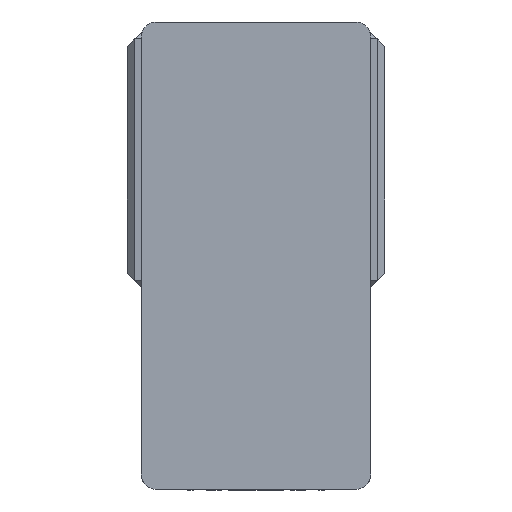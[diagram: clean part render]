
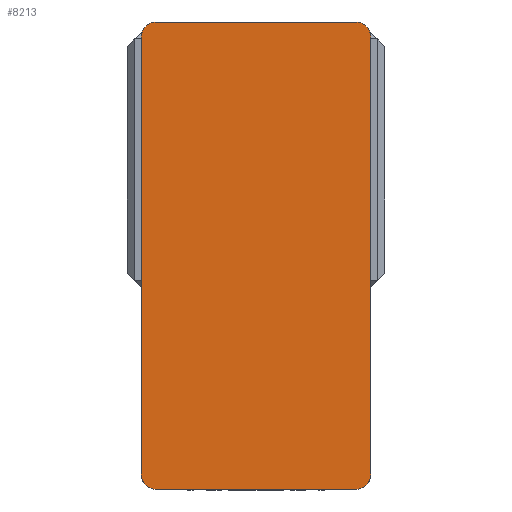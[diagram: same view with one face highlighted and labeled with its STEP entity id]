
A CAD part, left-side view. The second image highlights one B-rep face of the part: STEP entity #8213.
In plain terms, the highlighted planar face has unit normal (-1, 0, 0) as drawn and (0, 0, 1) by its records, which use the part's own axes.
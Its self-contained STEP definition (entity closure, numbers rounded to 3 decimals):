
#722 = VERTEX_POINT ( 'NONE', #6837 ) ;
#765 = CARTESIAN_POINT ( 'NONE',  ( 0., 0., 105. ) ) ;
#950 = DIRECTION ( 'NONE',  ( 0., 0., 1. ) ) ;
#971 = ORIENTED_EDGE ( 'NONE', *, *, #7994, .T. ) ;
#1046 = DIRECTION ( 'NONE',  ( 1., 0., 0. ) ) ;
#1080 = AXIS2_PLACEMENT_3D ( 'NONE', #7917, #2981, #8758 ) ;
#1086 = CARTESIAN_POINT ( 'NONE',  ( 65., 152.5, 105. ) ) ;
#1278 = CIRCLE ( 'NONE', #4645, 10. ) ;
#1470 = ORIENTED_EDGE ( 'NONE', *, *, #6660, .T. ) ;
#1596 = CARTESIAN_POINT ( 'NONE',  ( -75., 142.5, 105. ) ) ;
#1597 = DIRECTION ( 'NONE',  ( 1., 0., 0. ) ) ;
#1608 = VERTEX_POINT ( 'NONE', #8372 ) ;
#1697 = CARTESIAN_POINT ( 'NONE',  ( 65., -152.5, 105. ) ) ;
#1856 = LINE ( 'NONE', #2790, #10126 ) ;
#1975 = AXIS2_PLACEMENT_3D ( 'NONE', #765, #6542, #1597 ) ;
#2229 = EDGE_CURVE ( 'NONE', #5690, #9526, #1278, .T. ) ;
#2499 = DIRECTION ( 'NONE',  ( 0., 0., 1. ) ) ;
#2610 = VERTEX_POINT ( 'NONE', #1596 ) ;
#2634 = CARTESIAN_POINT ( 'NONE',  ( 75., -142.5, 105. ) ) ;
#2790 = CARTESIAN_POINT ( 'NONE',  ( 75., 152.5, 105. ) ) ;
#2981 = DIRECTION ( 'NONE',  ( 0., 0., 1. ) ) ;
#3055 = ORIENTED_EDGE ( 'NONE', *, *, #9083, .T. ) ;
#3124 = DIRECTION ( 'NONE',  ( 0., -1., 0. ) ) ;
#3128 = CARTESIAN_POINT ( 'NONE',  ( -75., 152.5, 105. ) ) ;
#3186 = VECTOR ( 'NONE', #1046, 1000. ) ;
#3252 = CIRCLE ( 'NONE', #5235, 10. ) ;
#3419 = EDGE_CURVE ( 'NONE', #7236, #4463, #10769, .T. ) ;
#3539 = DIRECTION ( 'NONE',  ( 0., 0., 1. ) ) ;
#3936 = AXIS2_PLACEMENT_3D ( 'NONE', #7455, #2499, #8299 ) ;
#3959 = DIRECTION ( 'NONE',  ( -1., 0., 0. ) ) ;
#4204 = VECTOR ( 'NONE', #3124, 1000. ) ;
#4407 = VERTEX_POINT ( 'NONE', #6187 ) ;
#4463 = VERTEX_POINT ( 'NONE', #8761 ) ;
#4645 = AXIS2_PLACEMENT_3D ( 'NONE', #5892, #950, #6735 ) ;
#4970 = CIRCLE ( 'NONE', #1080, 10. ) ;
#5235 = AXIS2_PLACEMENT_3D ( 'NONE', #8471, #3539, #9305 ) ;
#5308 = ORIENTED_EDGE ( 'NONE', *, *, #10795, .T. ) ;
#5642 = ORIENTED_EDGE ( 'NONE', *, *, #3419, .T. ) ;
#5690 = VERTEX_POINT ( 'NONE', #1697 ) ;
#5720 = PLANE ( 'NONE',  #1975 ) ;
#5892 = CARTESIAN_POINT ( 'NONE',  ( 65., -142.5, 105. ) ) ;
#5973 = CARTESIAN_POINT ( 'NONE',  ( -75., -152.5, 105. ) ) ;
#6187 = CARTESIAN_POINT ( 'NONE',  ( 75., 142.5, 105. ) ) ;
#6323 = VECTOR ( 'NONE', #3959, 1000. ) ;
#6378 = LINE ( 'NONE', #6380, #4204 ) ;
#6380 = CARTESIAN_POINT ( 'NONE',  ( -75., 152.5, 105. ) ) ;
#6511 = ORIENTED_EDGE ( 'NONE', *, *, #2229, .T. ) ;
#6542 = DIRECTION ( 'NONE',  ( 0., 0., 1. ) ) ;
#6660 = EDGE_CURVE ( 'NONE', #1608, #5690, #9496, .T. ) ;
#6735 = DIRECTION ( 'NONE',  ( 1., 0., 0. ) ) ;
#6837 = CARTESIAN_POINT ( 'NONE',  ( -75., -142.5, 105. ) ) ;
#7236 = VERTEX_POINT ( 'NONE', #1086 ) ;
#7455 = CARTESIAN_POINT ( 'NONE',  ( 65., 142.5, 105. ) ) ;
#7501 = EDGE_CURVE ( 'NONE', #2610, #722, #6378, .T. ) ;
#7671 = ORIENTED_EDGE ( 'NONE', *, *, #7501, .T. ) ;
#7841 = EDGE_CURVE ( 'NONE', #9526, #4407, #1856, .T. ) ;
#7917 = CARTESIAN_POINT ( 'NONE',  ( -65., -142.5, 105. ) ) ;
#7994 = EDGE_CURVE ( 'NONE', #722, #1608, #4970, .T. ) ;
#8213 = ADVANCED_FACE ( 'NONE', ( #8545 ), #5720, .T. ) ;
#8299 = DIRECTION ( 'NONE',  ( 1., 0., 0. ) ) ;
#8372 = CARTESIAN_POINT ( 'NONE',  ( -65., -152.5, 105. ) ) ;
#8471 = CARTESIAN_POINT ( 'NONE',  ( -65., 142.5, 105. ) ) ;
#8545 = FACE_OUTER_BOUND ( 'NONE', #8646, .T. ) ;
#8646 = EDGE_LOOP ( 'NONE', ( #1470, #6511, #8673, #5308, #5642, #3055, #7671, #971 ) ) ;
#8673 = ORIENTED_EDGE ( 'NONE', *, *, #7841, .T. ) ;
#8758 = DIRECTION ( 'NONE',  ( 1., 0., 0. ) ) ;
#8761 = CARTESIAN_POINT ( 'NONE',  ( -65., 152.5, 105. ) ) ;
#9083 = EDGE_CURVE ( 'NONE', #4463, #2610, #3252, .T. ) ;
#9305 = DIRECTION ( 'NONE',  ( 1., 0., 0. ) ) ;
#9395 = DIRECTION ( 'NONE',  ( 0., 1., 0. ) ) ;
#9496 = LINE ( 'NONE', #5973, #3186 ) ;
#9526 = VERTEX_POINT ( 'NONE', #2634 ) ;
#10126 = VECTOR ( 'NONE', #9395, 1000. ) ;
#10153 = CIRCLE ( 'NONE', #3936, 10. ) ;
#10769 = LINE ( 'NONE', #3128, #6323 ) ;
#10795 = EDGE_CURVE ( 'NONE', #4407, #7236, #10153, .T. ) ;
